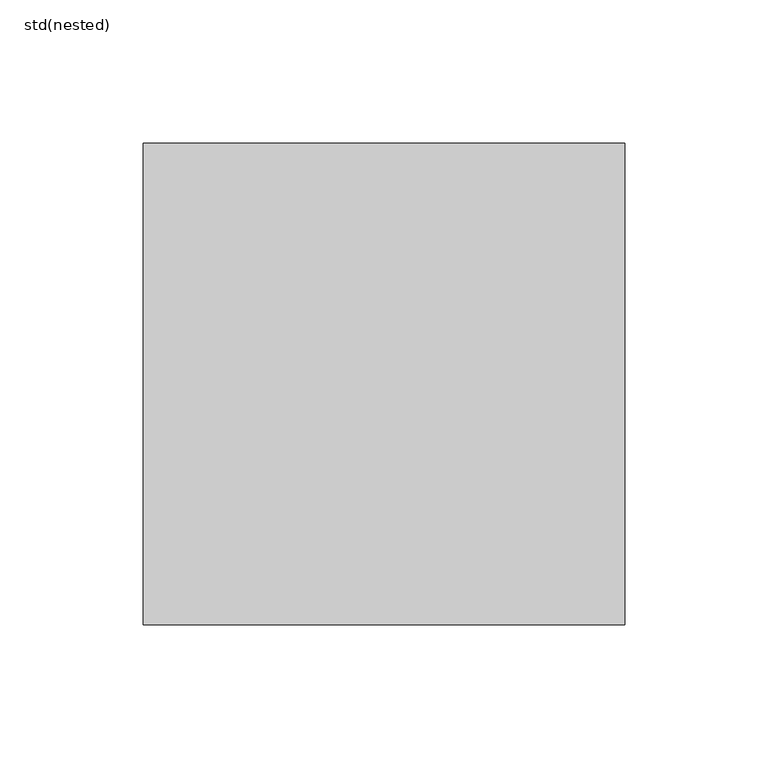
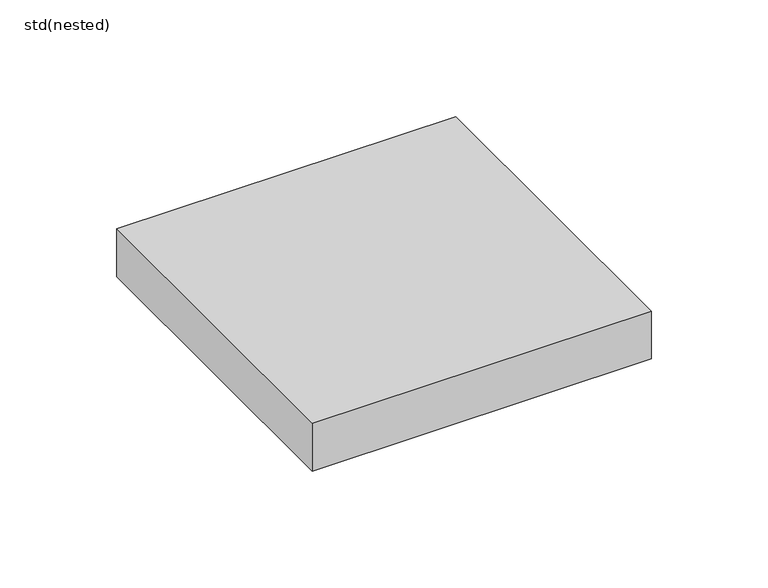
"""IFC4 building model written with IfcOpenShell, lengths in millimetres: sanitary terminal geometry, ZZZ_do not use_PF_SS_WPB_gratings Compact drain_CR 142_ACO : std(nested)."""

from ifc_helpers import new_model, si_unit, frame, origin, place, context, project, spatial, polyline, outline, extrude, source, transform, mapped, element, save


def std_nested_e5b45800(model_context):
    return source(origin(), model_context, "Body", "SweptSolid", [
        extrude(outline(polyline([(84.0, 84.0), (84.0, -84.0), (-84.0, -84.0), (-84.0, 84.0), (84.0, 84.0)])), frame((0.0, 0.0, -25.0), z_axis=(0.0, 0.0, 1.0), x_axis=(1.0, 0.0, 0.0)), (0.0, 0.0, 1.0), 25.0),
    ])


if __name__ == "__main__":
    model = new_model("IFC4")
    model_context = context("Model", 3, world=origin())
    ifc_project = project(units=[si_unit("LENGTHUNIT", "METRE", prefix="MILLI")], contexts=[model_context])
    site = spatial("IfcSite", under=ifc_project)
    building = spatial("IfcBuilding", under=site)
    placement = place(None, origin())
    std_nested_shape = std_nested_e5b45800(model_context)
    element("IfcSanitaryTerminal", 1, ObjectType="ZZZ_do not use_PF_SS_WPB_gratings Compact drain_CR 142_ACO : std(nested)", at=placement, inside=building, context=model_context, shape_type="MappedRepresentation", body=[
        mapped(std_nested_shape, transform((0.0, 0.0, 0.0), x_axis=(1.0, 0.0, 0.0), y_axis=(0.0, 1.0, 0.0), z_axis=(0.0, 0.0, 1.0))),
    ])
    save(model, "model.ifc")
